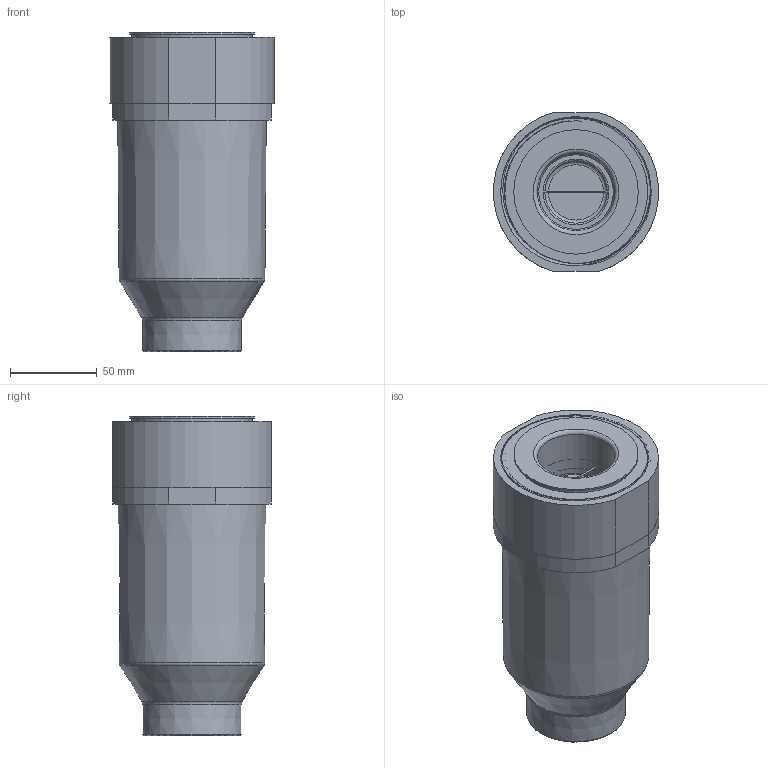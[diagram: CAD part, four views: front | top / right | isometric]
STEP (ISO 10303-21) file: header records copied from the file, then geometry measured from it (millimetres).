
FILE_DESCRIPTION(/* description */ (''),/* implementation_level */ '2;1');
FILE_NAME(/* name */ 'Scrap Drain 1.5 Coupler 2024-01-18 - 40mm Flange.step',/* time_stamp */ '2026-05-12T08:45:32+01:00',/* author */ (''),/* organization */ (''),/* preprocessor_version */ 'ST-DEVELOPER v20.1',/* originating_system */ 'Autodesk Translation Framework v15.8.0.0',/* authorisation */ '');
FILE_SCHEMA (('AUTOMOTIVE_DESIGN { 1 0 10303 214 3 1 1 }'));
Products named in the file (6): mcat13B87F5063lp; 40mm Flange Assembly; 40mm flange; 40mm Flange Nut; mcat13B87F5063lp_1; 40mm Flang Catch
Assembly tree (5 placements, depth 3):
  mcat13B87F5063lp
    40mm Flange Assembly
      40mm flange
      40mm Flange Nut
      mcat13B87F5063lp_1
      40mm Flang Catch
Bounding box: 94.9 x 91.44 x 184 mm (x, y, z)
Volume: 306360.6 mm3; surface area: 212312.4 mm2
Topology: 6 solids, 6 shells, 265 faces, 649 edges, 407 vertices
Faces by surface type: cylinder 131, plane 63, torus 30, bspline 18, sphere 16, cone 7
Full cylindrical faces by diameter (mm): 35.9 x1, 38.2 x1, 39.65 x1, 40.64 x1, 43 x1, 44.75 x1, 45.6 x1, 46.4 x1, 47.75 x1, 49 x1, 51.25 x1, 60 x1, 68.58 x1, 68.6 x1, 69.25 x1, 71.75 x1, 82.55 x23, 85.725 x19, 86.741 x23
Entity records: 45676 total; most frequent: CARTESIAN_POINT 39480, ORIENTED_EDGE 1298, DIRECTION 1194, EDGE_CURVE 649, AXIS2_PLACEMENT_3D 491, VERTEX_POINT 407, EDGE_LOOP 288, FACE_OUTER_BOUND 265
